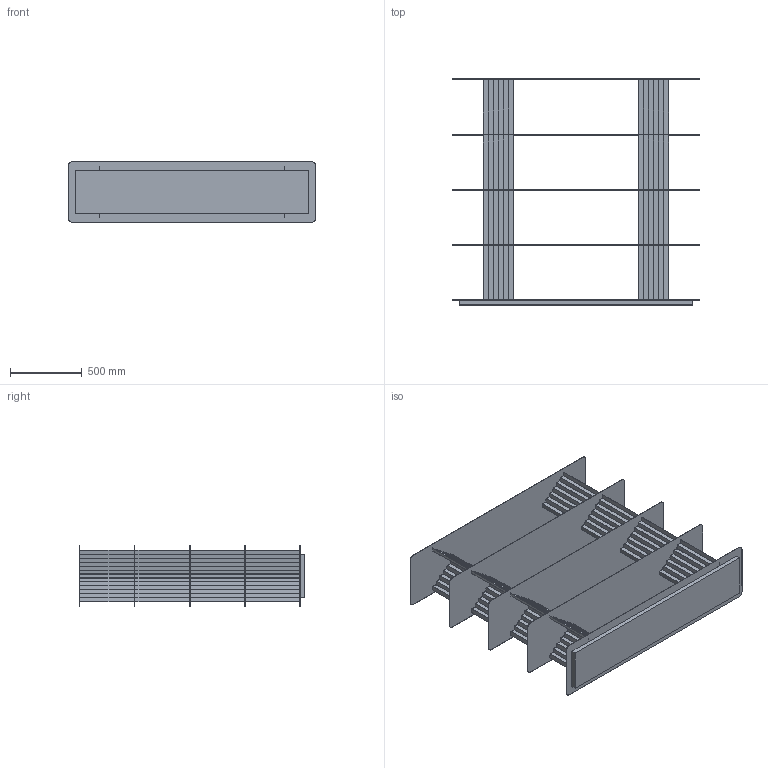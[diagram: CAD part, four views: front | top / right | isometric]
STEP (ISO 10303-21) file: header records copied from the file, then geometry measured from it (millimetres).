
FILE_DESCRIPTION (( 'STEP AP203' ), '1' );
FILE_NAME ('PLEC SHELVES S 4 NIVELES.STEP', '2025-05-08T10:13:27', ( '' ), ( '' ), 'SwSTEP 2.0', 'SolidWorks 2020', '' );
FILE_SCHEMA (( 'CONFIG_CONTROL_DESIGN' ));
Length unit declared in the file: millimetre
Products named in the file (1): PLEC SHELVES S 4 NIVELES
Bounding box: 1723 x 1571 x 420 mm (x, y, z)
Volume: 35933489.2 mm3; surface area: 12823419.4 mm2
Topology: 14 solids, 14 shells, 488 faces, 1380 edges, 920 vertices
Faces by surface type: plane 468, cylinder 20
Entity records: 15555 total; most frequent: CARTESIAN_POINT 2789, ORIENTED_EDGE 2760, DIRECTION 2398, EDGE_CURVE 1380, VECTOR 1340, LINE 1340, VERTEX_POINT 920, AXIS2_PLACEMENT_3D 529
